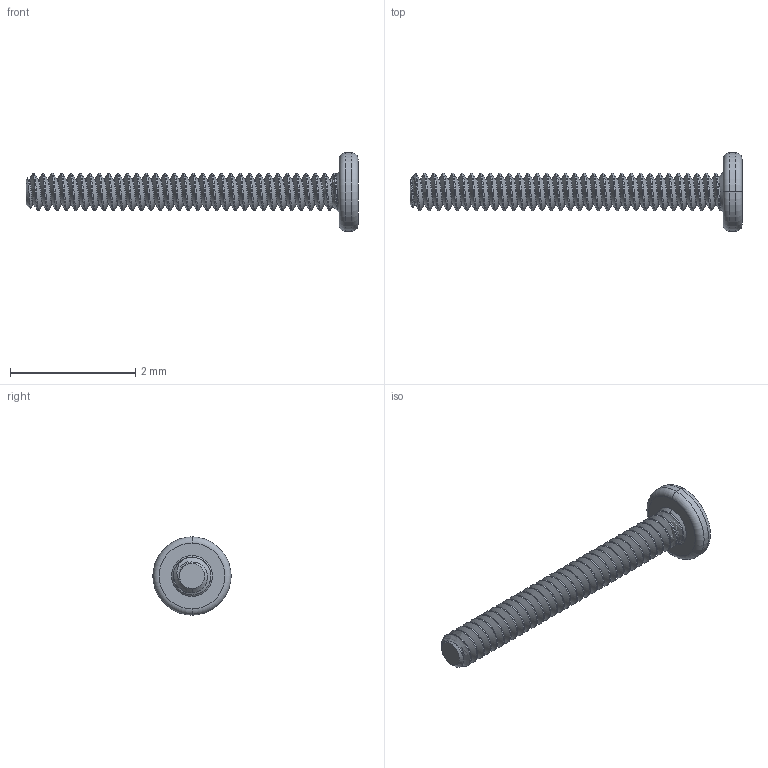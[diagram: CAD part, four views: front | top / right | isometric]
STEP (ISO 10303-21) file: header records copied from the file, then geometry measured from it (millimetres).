
FILE_DESCRIPTION (( 'STEP AP203' ), '1' );
FILE_NAME ('M06-50-M-SS-P-USMICROSCREW.STEP', '2014-04-21T20:54:57', ( 'Chromium' ), ( 'Microsoft' ), 'SwSTEP 2.0', 'SolidWorks 2013', '' );
FILE_SCHEMA (( 'CONFIG_CONTROL_DESIGN' ));
Length unit declared in the file: millimetre
Products named in the file (1): M06-50-M-SS-P-USMICROSCREW
Bounding box: 5.3 x 1.25 x 1.25 mm (x, y, z)
Volume: 1.4 mm3; surface area: 17.2 mm2
Topology: 1 solids, 1 shells, 197 faces, 565 edges, 368 vertices
Faces by surface type: cylinder 166, plane 16, bspline 6, cone 5, torus 4
Entity records: 9443 total; most frequent: CARTESIAN_POINT 5269, ORIENTED_EDGE 1122, DIRECTION 618, EDGE_CURVE 561, VERTEX_POINT 368, AXIS2_PLACEMENT_3D 213, EDGE_LOOP 199, ADVANCED_FACE 197
